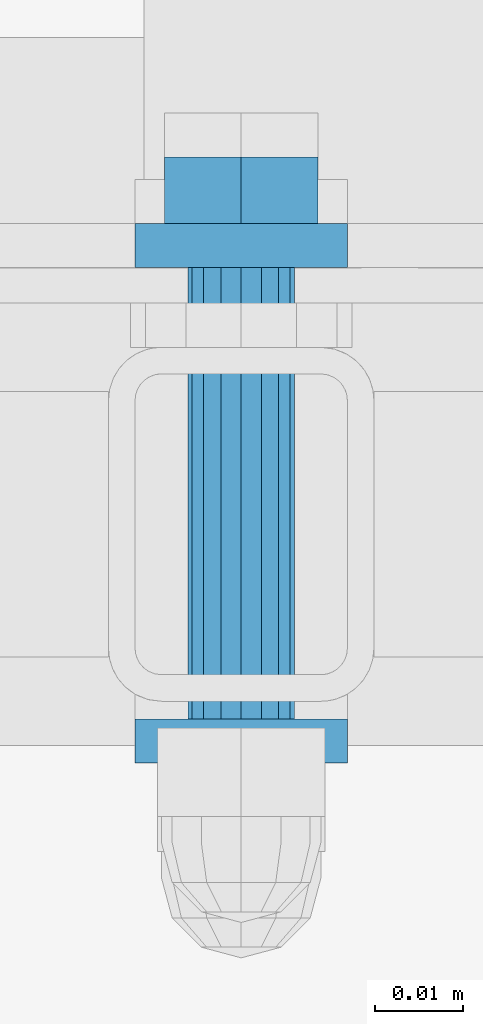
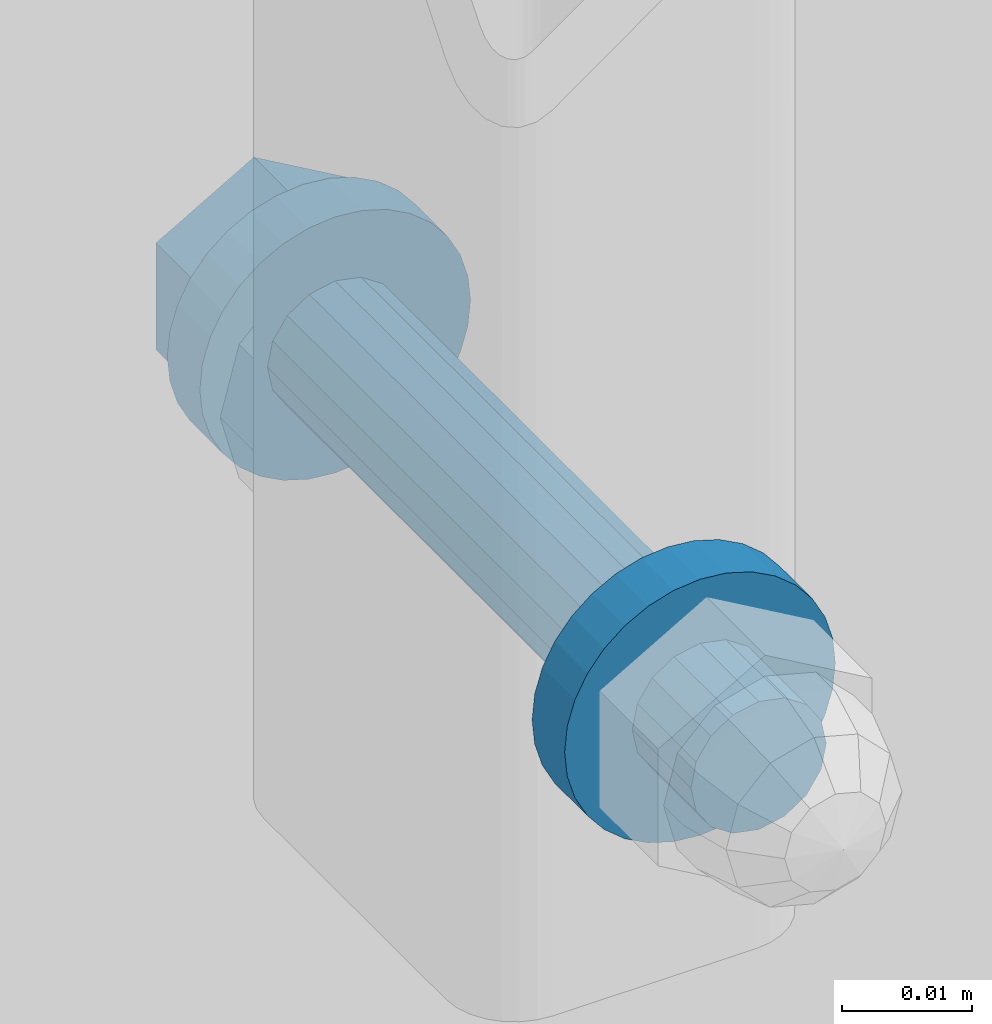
# One storey, part 37 of 116: 1 mechanical fastener.
"""IFC2X3 building model written with IfcOpenShell, lengths in millimetres."""

from ifc_helpers import new_model, entity, si_unit, converted_unit, origin_with_axes, place, context, project, spatial, faceted_brep, element, save


model = new_model("IFC2X3")

# Units and contexts
model_context = context("Model", 3, precision=1e-09, world=origin_with_axes())
ifc_project = project(units=[si_unit("LENGTHUNIT", "METRE", prefix="MILLI"), si_unit("AREAUNIT", "SQUARE_METRE"), si_unit("VOLUMEUNIT", "CUBIC_METRE"), converted_unit("PLANEANGLEUNIT", "DEGREE", entity("IfcPlaneAngleMeasure", 0.01745329), si_unit("PLANEANGLEUNIT", "RADIAN"), dimensions=[0, 0, 0, 0, 0, 0, 0])], contexts=[model_context])

# Site, building, storey
site_placement = place(None, origin_with_axes())
site = spatial("IfcSite", under=ifc_project, at=site_placement, Name="Site", CompositionType="ELEMENT")
building_placement = place(site_placement, origin_with_axes())
building = spatial("IfcBuilding", under=site, at=building_placement, Name="Struktur 1", CompositionType="ELEMENT")
storey_placement = place(building_placement, origin_with_axes())
storey = spatial("IfcBuildingStorey", under=building, at=storey_placement, Name="Default Storey", CompositionType="ELEMENT", Elevation=0.0)

# Mechanical fastener
mechanical_fastener_placement = place(None, origin_with_axes())
element("IfcMechanicalFastener", 1, at=mechanical_fastener_placement, inside=storey, ObjectType="-", NominalDiameter=12.0, NominalLength=70.0, context=model_context, shape_type="Brep", body=[
    faceted_brep([(58885.049134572, 9076.358883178, -458.0), (58885.049134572, 9078.858883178, -458.0), (58885.279711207, 9078.858883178, -460.341083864), (58885.279711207, 9076.358883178, -460.341083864), (58885.962580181, 9078.858883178, -462.592201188), (58885.962580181, 9076.358883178, -462.592201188), (58887.071499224, 9078.858883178, -464.666842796), (58887.071499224, 9076.358883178, -464.666842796), (58888.563853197, 9078.858883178, -466.485281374), (58888.563853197, 9076.358883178, -466.485281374), (58890.382291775, 9078.858883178, -467.977635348), (58890.382291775, 9076.358883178, -467.977635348), (58892.456933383, 9078.858883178, -469.08655439), (58892.456933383, 9076.358883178, -469.08655439), (58894.708050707, 9078.858883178, -469.769423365), (58894.708050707, 9076.358883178, -469.769423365), (58897.049134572, 9078.858883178, -470.0), (58897.049134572, 9076.358883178, -470.0), (58899.390218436, 9078.858883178, -469.769423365), (58899.390218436, 9076.358883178, -469.769423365), (58901.64133576, 9078.858883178, -469.08655439), (58901.64133576, 9076.358883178, -469.08655439), (58903.715977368, 9078.858883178, -467.977635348), (58903.715977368, 9076.358883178, -467.977635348), (58905.534415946, 9078.858883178, -466.485281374), (58905.534415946, 9076.358883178, -466.485281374), (58907.026769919, 9078.858883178, -464.666842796), (58907.026769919, 9076.358883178, -464.666842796), (58908.135688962, 9078.858883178, -462.592201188), (58908.135688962, 9076.358883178, -462.592201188), (58908.818557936, 9078.858883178, -460.341083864), (58908.818557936, 9076.358883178, -460.341083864), (58909.049134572, 9078.858883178, -458.0), (58909.049134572, 9076.358883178, -458.0), (58908.818557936, 9078.858883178, -455.658916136), (58908.818557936, 9076.358883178, -455.658916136), (58908.135688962, 9078.858883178, -453.407798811), (58908.135688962, 9076.358883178, -453.407798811), (58907.026769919, 9078.858883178, -451.333157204), (58907.026769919, 9076.358883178, -451.333157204), (58905.534415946, 9078.858883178, -449.514718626), (58905.534415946, 9076.358883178, -449.514718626), (58903.715977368, 9078.858883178, -448.022364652), (58903.715977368, 9076.358883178, -448.022364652), (58901.64133576, 9078.858883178, -446.91344561), (58901.64133576, 9076.358883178, -446.91344561), (58899.390218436, 9078.858883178, -446.230576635), (58899.390218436, 9076.358883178, -446.230576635), (58897.049134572, 9078.858883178, -446.0), (58897.049134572, 9076.358883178, -446.0), (58894.708050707, 9078.858883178, -446.230576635), (58894.708050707, 9076.358883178, -446.230576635), (58892.456933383, 9078.858883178, -446.91344561), (58892.456933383, 9076.358883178, -446.91344561), (58890.382291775, 9078.858883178, -448.022364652), (58890.382291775, 9076.358883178, -448.022364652), (58888.563853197, 9078.858883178, -449.514718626), (58888.563853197, 9076.358883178, -449.514718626), (58887.071499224, 9078.858883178, -451.333157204), (58887.071499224, 9076.358883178, -451.333157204), (58885.962580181, 9078.858883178, -453.407798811), (58885.962580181, 9076.358883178, -453.407798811), (58885.279711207, 9078.858883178, -455.658916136), (58885.279711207, 9076.358883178, -455.658916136)], [[[0, 1, 2, 3]], [[3, 2, 4, 5]], [[5, 4, 6, 7]], [[7, 6, 8, 9]], [[9, 8, 10, 11]], [[11, 10, 12, 13]], [[13, 12, 14, 15]], [[15, 14, 16, 17]], [[17, 16, 18, 19]], [[19, 18, 20, 21]], [[21, 20, 22, 23]], [[23, 22, 24, 25]], [[25, 24, 26, 27]], [[27, 26, 28, 29]], [[29, 28, 30, 31]], [[31, 30, 32, 33]], [[33, 32, 34, 35]], [[35, 34, 36, 37]], [[37, 36, 38, 39]], [[39, 38, 40, 41]], [[41, 40, 42, 43]], [[43, 42, 44, 45]], [[45, 44, 46, 47]], [[47, 46, 48, 49]], [[49, 48, 50, 51]], [[51, 50, 52, 53]], [[53, 52, 54, 55]], [[55, 54, 56, 57]], [[57, 56, 58, 59]], [[59, 58, 60, 61]], [[61, 60, 62, 63]], [[63, 62, 1, 0]], [[2, 1, 62, 60, 58, 56, 54, 52, 50, 48, 46, 44, 42, 40, 38, 36, 34, 32, 30, 28, 26, 24, 22, 20, 18, 16, 14, 12, 10, 8, 6, 4]], [[63, 0, 3, 5, 7, 9, 11, 13, 15, 17, 19, 21, 23, 25, 27, 29, 31, 33, 35, 37, 39, 41, 43, 45, 47, 49, 51, 53, 55, 57, 59, 61]]]),
    faceted_brep([(58885.049134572, 9078.858883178, -458.0), (58885.049134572, 9081.358883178, -458.0), (58885.279711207, 9081.358883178, -460.341083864), (58885.279711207, 9078.858883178, -460.341083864), (58885.962580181, 9081.358883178, -462.592201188), (58885.962580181, 9078.858883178, -462.592201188), (58887.071499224, 9081.358883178, -464.666842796), (58887.071499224, 9078.858883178, -464.666842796), (58888.563853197, 9081.358883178, -466.485281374), (58888.563853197, 9078.858883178, -466.485281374), (58890.382291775, 9081.358883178, -467.977635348), (58890.382291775, 9078.858883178, -467.977635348), (58892.456933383, 9081.358883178, -469.08655439), (58892.456933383, 9078.858883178, -469.08655439), (58894.708050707, 9081.358883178, -469.769423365), (58894.708050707, 9078.858883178, -469.769423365), (58897.049134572, 9081.358883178, -470.0), (58897.049134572, 9078.858883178, -470.0), (58899.390218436, 9081.358883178, -469.769423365), (58899.390218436, 9078.858883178, -469.769423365), (58901.64133576, 9081.358883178, -469.08655439), (58901.64133576, 9078.858883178, -469.08655439), (58903.715977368, 9081.358883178, -467.977635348), (58903.715977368, 9078.858883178, -467.977635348), (58905.534415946, 9081.358883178, -466.485281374), (58905.534415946, 9078.858883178, -466.485281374), (58907.026769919, 9081.358883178, -464.666842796), (58907.026769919, 9078.858883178, -464.666842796), (58908.135688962, 9081.358883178, -462.592201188), (58908.135688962, 9078.858883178, -462.592201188), (58908.818557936, 9081.358883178, -460.341083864), (58908.818557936, 9078.858883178, -460.341083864), (58909.049134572, 9081.358883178, -458.0), (58909.049134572, 9078.858883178, -458.0), (58908.818557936, 9081.358883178, -455.658916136), (58908.818557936, 9078.858883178, -455.658916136), (58908.135688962, 9081.358883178, -453.407798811), (58908.135688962, 9078.858883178, -453.407798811), (58907.026769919, 9081.358883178, -451.333157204), (58907.026769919, 9078.858883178, -451.333157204), (58905.534415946, 9081.358883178, -449.514718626), (58905.534415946, 9078.858883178, -449.514718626), (58903.715977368, 9081.358883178, -448.022364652), (58903.715977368, 9078.858883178, -448.022364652), (58901.64133576, 9081.358883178, -446.91344561), (58901.64133576, 9078.858883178, -446.91344561), (58899.390218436, 9081.358883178, -446.230576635), (58899.390218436, 9078.858883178, -446.230576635), (58897.049134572, 9081.358883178, -446.0), (58897.049134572, 9078.858883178, -446.0), (58894.708050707, 9081.358883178, -446.230576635), (58894.708050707, 9078.858883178, -446.230576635), (58892.456933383, 9081.358883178, -446.91344561), (58892.456933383, 9078.858883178, -446.91344561), (58890.382291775, 9081.358883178, -448.022364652), (58890.382291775, 9078.858883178, -448.022364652), (58888.563853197, 9081.358883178, -449.514718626), (58888.563853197, 9078.858883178, -449.514718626), (58887.071499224, 9081.358883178, -451.333157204), (58887.071499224, 9078.858883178, -451.333157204), (58885.962580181, 9081.358883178, -453.407798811), (58885.962580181, 9078.858883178, -453.407798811), (58885.279711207, 9081.358883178, -455.658916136), (58885.279711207, 9078.858883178, -455.658916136)], [[[0, 1, 2, 3]], [[3, 2, 4, 5]], [[5, 4, 6, 7]], [[7, 6, 8, 9]], [[9, 8, 10, 11]], [[11, 10, 12, 13]], [[13, 12, 14, 15]], [[15, 14, 16, 17]], [[17, 16, 18, 19]], [[19, 18, 20, 21]], [[21, 20, 22, 23]], [[23, 22, 24, 25]], [[25, 24, 26, 27]], [[27, 26, 28, 29]], [[29, 28, 30, 31]], [[31, 30, 32, 33]], [[33, 32, 34, 35]], [[35, 34, 36, 37]], [[37, 36, 38, 39]], [[39, 38, 40, 41]], [[41, 40, 42, 43]], [[43, 42, 44, 45]], [[45, 44, 46, 47]], [[47, 46, 48, 49]], [[49, 48, 50, 51]], [[51, 50, 52, 53]], [[53, 52, 54, 55]], [[55, 54, 56, 57]], [[57, 56, 58, 59]], [[59, 58, 60, 61]], [[61, 60, 62, 63]], [[63, 62, 1, 0]], [[2, 1, 62, 60, 58, 56, 54, 52, 50, 48, 46, 44, 42, 40, 38, 36, 34, 32, 30, 28, 26, 24, 22, 20, 18, 16, 14, 12, 10, 8, 6, 4]], [[63, 0, 3, 5, 7, 9, 11, 13, 15, 17, 19, 21, 23, 25, 27, 29, 31, 33, 35, 37, 39, 41, 43, 45, 47, 49, 51, 53, 55, 57, 59, 61]]]),
    faceted_brep([(58905.722378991, 9088.858883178, -463.0075), (58905.722378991, 9081.358883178, -463.0075), (58897.049134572, 9081.358883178, -468.015), (58897.049134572, 9088.858883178, -468.015), (58888.375890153, 9081.358883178, -463.0075), (58888.375890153, 9088.858883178, -463.0075), (58888.375890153, 9081.358883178, -452.9925), (58888.375890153, 9088.858883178, -452.9925), (58897.049134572, 9081.358883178, -447.985), (58897.049134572, 9088.858883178, -447.985), (58905.722378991, 9081.358883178, -452.9925), (58905.722378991, 9088.858883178, -452.9925)], [[[0, 1, 2, 3]], [[3, 2, 4, 5]], [[5, 4, 6, 7]], [[7, 6, 8, 9]], [[9, 8, 10, 11]], [[11, 10, 1, 0]], [[3, 5, 7, 9, 11, 0]], [[2, 1, 10, 8, 6, 4]]]),
    faceted_brep([(58891.049134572, 9025.359883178, -458.0), (58891.049134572, 9076.358883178, -458.0), (58891.505857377, 9076.358883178, -460.296100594), (58891.505857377, 9025.359883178, -460.296100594), (58892.806493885, 9076.358883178, -462.242640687), (58892.806493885, 9025.359883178, -462.242640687), (58894.753033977, 9076.358883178, -463.543277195), (58894.753033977, 9025.359883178, -463.543277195), (58897.049134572, 9076.358883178, -464.0), (58897.049134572, 9025.359883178, -464.0), (58899.345235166, 9076.358883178, -463.543277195), (58899.345235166, 9025.359883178, -463.543277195), (58901.291775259, 9076.358883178, -462.242640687), (58901.291775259, 9025.359883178, -462.242640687), (58902.592411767, 9076.358883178, -460.296100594), (58902.592411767, 9025.359883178, -460.296100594), (58903.049134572, 9076.358883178, -458.0), (58903.049134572, 9025.359883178, -458.0), (58902.592411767, 9076.358883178, -455.703899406), (58902.592411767, 9025.359883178, -455.703899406), (58901.291775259, 9076.358883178, -453.757359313), (58901.291775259, 9025.359883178, -453.757359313), (58899.345235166, 9076.358883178, -452.456722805), (58899.345235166, 9025.359883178, -452.456722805), (58897.049134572, 9076.358883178, -452.0), (58897.049134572, 9025.359883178, -452.0), (58894.753033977, 9076.358883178, -452.456722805), (58894.753033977, 9025.359883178, -452.456722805), (58892.806493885, 9076.358883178, -453.757359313), (58892.806493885, 9025.359883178, -453.757359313), (58891.505857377, 9076.358883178, -455.703899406), (58891.505857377, 9025.359883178, -455.703899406)], [[[0, 1, 2, 3]], [[3, 2, 4, 5]], [[5, 4, 6, 7]], [[7, 6, 8, 9]], [[9, 8, 10, 11]], [[11, 10, 12, 13]], [[13, 12, 14, 15]], [[15, 14, 16, 17]], [[17, 16, 18, 19]], [[19, 18, 20, 21]], [[21, 20, 22, 23]], [[23, 22, 24, 25]], [[25, 24, 26, 27]], [[27, 26, 28, 29]], [[29, 28, 30, 31]], [[31, 30, 1, 0]], [[2, 1, 30, 28, 26, 24, 22, 20, 18, 16, 14, 12, 10, 8, 6, 4]], [[31, 0, 3, 5, 7, 9, 11, 13, 15, 17, 19, 21, 23, 25, 27, 29]]]),
    faceted_brep([(58885.049134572, 9022.859883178, -458.0), (58885.049134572, 9025.359883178, -458.0), (58885.279711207, 9025.359883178, -460.341083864), (58885.279711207, 9022.859883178, -460.341083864), (58885.962580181, 9025.359883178, -462.592201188), (58885.962580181, 9022.859883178, -462.592201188), (58887.071499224, 9025.359883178, -464.666842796), (58887.071499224, 9022.859883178, -464.666842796), (58888.563853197, 9025.359883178, -466.485281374), (58888.563853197, 9022.859883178, -466.485281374), (58890.382291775, 9025.359883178, -467.977635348), (58890.382291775, 9022.859883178, -467.977635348), (58892.456933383, 9025.359883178, -469.08655439), (58892.456933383, 9022.859883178, -469.08655439), (58894.708050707, 9025.359883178, -469.769423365), (58894.708050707, 9022.859883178, -469.769423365), (58897.049134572, 9025.359883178, -470.0), (58897.049134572, 9022.859883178, -470.0), (58899.390218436, 9025.359883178, -469.769423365), (58899.390218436, 9022.859883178, -469.769423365), (58901.64133576, 9025.359883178, -469.08655439), (58901.64133576, 9022.859883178, -469.08655439), (58903.715977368, 9025.359883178, -467.977635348), (58903.715977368, 9022.859883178, -467.977635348), (58905.534415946, 9025.359883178, -466.485281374), (58905.534415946, 9022.859883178, -466.485281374), (58907.026769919, 9025.359883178, -464.666842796), (58907.026769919, 9022.859883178, -464.666842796), (58908.135688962, 9025.359883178, -462.592201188), (58908.135688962, 9022.859883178, -462.592201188), (58908.818557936, 9025.359883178, -460.341083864), (58908.818557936, 9022.859883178, -460.341083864), (58909.049134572, 9025.359883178, -458.0), (58909.049134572, 9022.859883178, -458.0), (58908.818557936, 9025.359883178, -455.658916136), (58908.818557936, 9022.859883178, -455.658916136), (58908.135688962, 9025.359883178, -453.407798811), (58908.135688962, 9022.859883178, -453.407798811), (58907.026769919, 9025.359883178, -451.333157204), (58907.026769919, 9022.859883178, -451.333157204), (58905.534415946, 9025.359883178, -449.514718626), (58905.534415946, 9022.859883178, -449.514718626), (58903.715977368, 9025.359883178, -448.022364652), (58903.715977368, 9022.859883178, -448.022364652), (58901.64133576, 9025.359883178, -446.91344561), (58901.64133576, 9022.859883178, -446.91344561), (58899.390218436, 9025.359883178, -446.230576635), (58899.390218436, 9022.859883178, -446.230576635), (58897.049134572, 9025.359883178, -446.0), (58897.049134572, 9022.859883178, -446.0), (58894.708050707, 9025.359883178, -446.230576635), (58894.708050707, 9022.859883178, -446.230576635), (58892.456933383, 9025.359883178, -446.91344561), (58892.456933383, 9022.859883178, -446.91344561), (58890.382291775, 9025.359883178, -448.022364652), (58890.382291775, 9022.859883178, -448.022364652), (58888.563853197, 9025.359883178, -449.514718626), (58888.563853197, 9022.859883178, -449.514718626), (58887.071499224, 9025.359883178, -451.333157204), (58887.071499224, 9022.859883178, -451.333157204), (58885.962580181, 9025.359883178, -453.407798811), (58885.962580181, 9022.859883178, -453.407798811), (58885.279711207, 9025.359883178, -455.658916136), (58885.279711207, 9022.859883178, -455.658916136)], [[[0, 1, 2, 3]], [[3, 2, 4, 5]], [[5, 4, 6, 7]], [[7, 6, 8, 9]], [[9, 8, 10, 11]], [[11, 10, 12, 13]], [[13, 12, 14, 15]], [[15, 14, 16, 17]], [[17, 16, 18, 19]], [[19, 18, 20, 21]], [[21, 20, 22, 23]], [[23, 22, 24, 25]], [[25, 24, 26, 27]], [[27, 26, 28, 29]], [[29, 28, 30, 31]], [[31, 30, 32, 33]], [[33, 32, 34, 35]], [[35, 34, 36, 37]], [[37, 36, 38, 39]], [[39, 38, 40, 41]], [[41, 40, 42, 43]], [[43, 42, 44, 45]], [[45, 44, 46, 47]], [[47, 46, 48, 49]], [[49, 48, 50, 51]], [[51, 50, 52, 53]], [[53, 52, 54, 55]], [[55, 54, 56, 57]], [[57, 56, 58, 59]], [[59, 58, 60, 61]], [[61, 60, 62, 63]], [[63, 62, 1, 0]], [[2, 1, 62, 60, 58, 56, 54, 52, 50, 48, 46, 44, 42, 40, 38, 36, 34, 32, 30, 28, 26, 24, 22, 20, 18, 16, 14, 12, 10, 8, 6, 4]], [[63, 0, 3, 5, 7, 9, 11, 13, 15, 17, 19, 21, 23, 25, 27, 29, 31, 33, 35, 37, 39, 41, 43, 45, 47, 49, 51, 53, 55, 57, 59, 61]]]),
    faceted_brep([(58885.049134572, 9020.359883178, -458.0), (58885.049134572, 9022.859883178, -458.0), (58885.279711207, 9022.859883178, -460.341083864), (58885.279711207, 9020.359883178, -460.341083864), (58885.962580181, 9022.859883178, -462.592201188), (58885.962580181, 9020.359883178, -462.592201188), (58887.071499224, 9022.859883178, -464.666842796), (58887.071499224, 9020.359883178, -464.666842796), (58888.563853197, 9022.859883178, -466.485281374), (58888.563853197, 9020.359883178, -466.485281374), (58890.382291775, 9022.859883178, -467.977635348), (58890.382291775, 9020.359883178, -467.977635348), (58892.456933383, 9022.859883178, -469.08655439), (58892.456933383, 9020.359883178, -469.08655439), (58894.708050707, 9022.859883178, -469.769423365), (58894.708050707, 9020.359883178, -469.769423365), (58897.049134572, 9022.859883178, -470.0), (58897.049134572, 9020.359883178, -470.0), (58899.390218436, 9022.859883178, -469.769423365), (58899.390218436, 9020.359883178, -469.769423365), (58901.64133576, 9022.859883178, -469.08655439), (58901.64133576, 9020.359883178, -469.08655439), (58903.715977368, 9022.859883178, -467.977635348), (58903.715977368, 9020.359883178, -467.977635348), (58905.534415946, 9022.859883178, -466.485281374), (58905.534415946, 9020.359883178, -466.485281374), (58907.026769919, 9022.859883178, -464.666842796), (58907.026769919, 9020.359883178, -464.666842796), (58908.135688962, 9022.859883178, -462.592201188), (58908.135688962, 9020.359883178, -462.592201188), (58908.818557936, 9022.859883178, -460.341083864), (58908.818557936, 9020.359883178, -460.341083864), (58909.049134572, 9022.859883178, -458.0), (58909.049134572, 9020.359883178, -458.0), (58908.818557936, 9022.859883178, -455.658916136), (58908.818557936, 9020.359883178, -455.658916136), (58908.135688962, 9022.859883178, -453.407798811), (58908.135688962, 9020.359883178, -453.407798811), (58907.026769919, 9022.859883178, -451.333157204), (58907.026769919, 9020.359883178, -451.333157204), (58905.534415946, 9022.859883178, -449.514718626), (58905.534415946, 9020.359883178, -449.514718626), (58903.715977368, 9022.859883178, -448.022364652), (58903.715977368, 9020.359883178, -448.022364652), (58901.64133576, 9022.859883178, -446.91344561), (58901.64133576, 9020.359883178, -446.91344561), (58899.390218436, 9022.859883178, -446.230576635), (58899.390218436, 9020.359883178, -446.230576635), (58897.049134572, 9022.859883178, -446.0), (58897.049134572, 9020.359883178, -446.0), (58894.708050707, 9022.859883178, -446.230576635), (58894.708050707, 9020.359883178, -446.230576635), (58892.456933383, 9022.859883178, -446.91344561), (58892.456933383, 9020.359883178, -446.91344561), (58890.382291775, 9022.859883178, -448.022364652), (58890.382291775, 9020.359883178, -448.022364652), (58888.563853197, 9022.859883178, -449.514718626), (58888.563853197, 9020.359883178, -449.514718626), (58887.071499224, 9022.859883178, -451.333157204), (58887.071499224, 9020.359883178, -451.333157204), (58885.962580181, 9022.859883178, -453.407798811), (58885.962580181, 9020.359883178, -453.407798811), (58885.279711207, 9022.859883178, -455.658916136), (58885.279711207, 9020.359883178, -455.658916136)], [[[0, 1, 2, 3]], [[3, 2, 4, 5]], [[5, 4, 6, 7]], [[7, 6, 8, 9]], [[9, 8, 10, 11]], [[11, 10, 12, 13]], [[13, 12, 14, 15]], [[15, 14, 16, 17]], [[17, 16, 18, 19]], [[19, 18, 20, 21]], [[21, 20, 22, 23]], [[23, 22, 24, 25]], [[25, 24, 26, 27]], [[27, 26, 28, 29]], [[29, 28, 30, 31]], [[31, 30, 32, 33]], [[33, 32, 34, 35]], [[35, 34, 36, 37]], [[37, 36, 38, 39]], [[39, 38, 40, 41]], [[41, 40, 42, 43]], [[43, 42, 44, 45]], [[45, 44, 46, 47]], [[47, 46, 48, 49]], [[49, 48, 50, 51]], [[51, 50, 52, 53]], [[53, 52, 54, 55]], [[55, 54, 56, 57]], [[57, 56, 58, 59]], [[59, 58, 60, 61]], [[61, 60, 62, 63]], [[63, 62, 1, 0]], [[2, 1, 62, 60, 58, 56, 54, 52, 50, 48, 46, 44, 42, 40, 38, 36, 34, 32, 30, 28, 26, 24, 22, 20, 18, 16, 14, 12, 10, 8, 6, 4]], [[63, 0, 3, 5, 7, 9, 11, 13, 15, 17, 19, 21, 23, 25, 27, 29, 31, 33, 35, 37, 39, 41, 43, 45, 47, 49, 51, 53, 55, 57, 59, 61]]]),
    faceted_brep([(58891.049134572, 9011.358883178, -458.0), (58891.049134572, 9020.359883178, -458.0), (58891.505857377, 9020.359883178, -460.296100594), (58891.505857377, 9011.358883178, -460.296100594), (58892.806493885, 9020.359883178, -462.242640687), (58892.806493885, 9011.358883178, -462.242640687), (58894.753033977, 9020.359883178, -463.543277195), (58894.753033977, 9011.358883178, -463.543277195), (58897.049134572, 9020.359883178, -464.0), (58897.049134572, 9011.358883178, -464.0), (58899.345235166, 9020.359883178, -463.543277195), (58899.345235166, 9011.358883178, -463.543277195), (58901.291775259, 9020.359883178, -462.242640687), (58901.291775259, 9011.358883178, -462.242640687), (58902.592411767, 9020.359883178, -460.296100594), (58902.592411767, 9011.358883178, -460.296100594), (58903.049134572, 9020.359883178, -458.0), (58903.049134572, 9011.358883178, -458.0), (58902.592411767, 9020.359883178, -455.703899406), (58902.592411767, 9011.358883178, -455.703899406), (58901.291775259, 9020.359883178, -453.757359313), (58901.291775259, 9011.358883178, -453.757359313), (58899.345235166, 9020.359883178, -452.456722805), (58899.345235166, 9011.358883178, -452.456722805), (58897.049134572, 9020.359883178, -452.0), (58897.049134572, 9011.358883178, -452.0), (58894.753033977, 9020.359883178, -452.456722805), (58894.753033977, 9011.358883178, -452.456722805), (58892.806493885, 9020.359883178, -453.757359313), (58892.806493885, 9011.358883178, -453.757359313), (58891.505857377, 9020.359883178, -455.703899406), (58891.505857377, 9011.358883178, -455.703899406)], [[[0, 1, 2, 3]], [[3, 2, 4, 5]], [[5, 4, 6, 7]], [[7, 6, 8, 9]], [[9, 8, 10, 11]], [[11, 10, 12, 13]], [[13, 12, 14, 15]], [[15, 14, 16, 17]], [[17, 16, 18, 19]], [[19, 18, 20, 21]], [[21, 20, 22, 23]], [[23, 22, 24, 25]], [[25, 24, 26, 27]], [[27, 26, 28, 29]], [[29, 28, 30, 31]], [[31, 30, 1, 0]], [[2, 1, 30, 28, 26, 24, 22, 20, 18, 16, 14, 12, 10, 8, 6, 4]], [[31, 0, 3, 5, 7, 9, 11, 13, 15, 17, 19, 21, 23, 25, 27, 29]]]),
])

save(model, "model.ifc")
